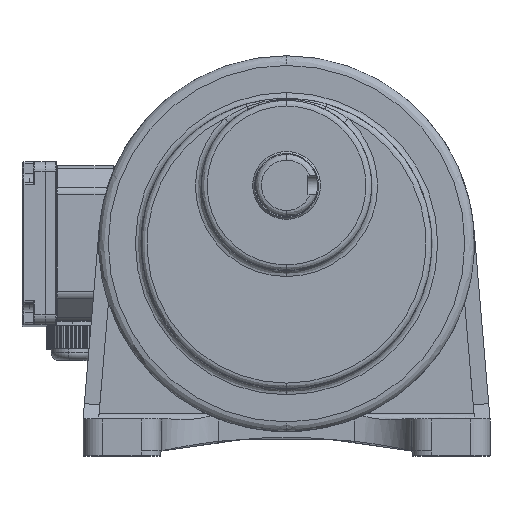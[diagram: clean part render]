
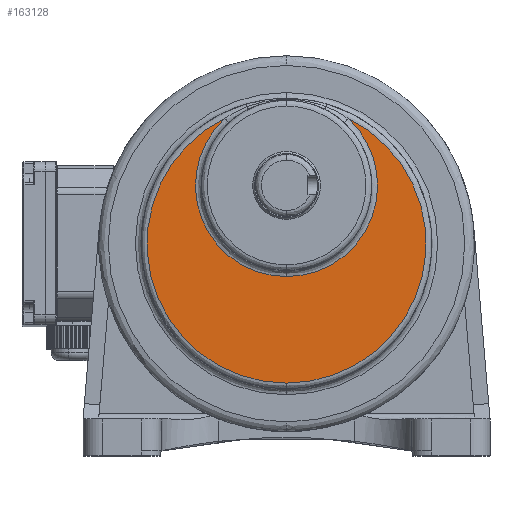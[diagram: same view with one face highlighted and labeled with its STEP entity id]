
A CAD part, top view. The second image highlights one B-rep face of the part: STEP entity #163128.
In plain terms, the highlighted planar face has unit normal (0, 0, 1) as drawn and (0, 1, 0) by its records, which use the part's own axes.
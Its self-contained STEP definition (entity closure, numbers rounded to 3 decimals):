
#5262 = CIRCLE ( 'NONE', #142334, 47. ) ;
#11833 = CARTESIAN_POINT ( 'NONE',  ( 78., 0., -48.063 ) ) ;
#21671 = AXIS2_PLACEMENT_3D ( 'NONE', #11833, #86625, #161398 ) ;
#25664 = ORIENTED_EDGE ( 'NONE', *, *, #219048, .T. ) ;
#27179 = CARTESIAN_POINT ( 'NONE',  ( 0., 0., 47. ) ) ;
#32417 = DIRECTION ( 'NONE',  ( 0., 1., 0. ) ) ;
#32724 = DIRECTION ( 'NONE',  ( 0., -1., 0. ) ) ;
#35110 = ORIENTED_EDGE ( 'NONE', *, *, #106664, .T. ) ;
#38413 = AXIS2_PLACEMENT_3D ( 'NONE', #161771, #236529, #68610 ) ;
#59233 = CIRCLE ( 'NONE', #196266, 47. ) ;
#68610 = DIRECTION ( 'NONE',  ( 0., 0., 1. ) ) ;
#81147 = CARTESIAN_POINT ( 'NONE',  ( 0., 0., 0. ) ) ;
#83918 = CIRCLE ( 'NONE', #220983, 72. ) ;
#86625 = DIRECTION ( 'NONE',  ( 0., 1., 0. ) ) ;
#105038 = CARTESIAN_POINT ( 'NONE',  ( 0., 0., 102. ) ) ;
#105042 = FACE_OUTER_BOUND ( 'NONE', #128860, .T. ) ;
#106212 = VERTEX_POINT ( 'NONE', #143059 ) ;
#106664 = EDGE_CURVE ( 'NONE', #194508, #106212, #83918, .T. ) ;
#107228 = DIRECTION ( 'NONE',  ( 0., 0., 1. ) ) ;
#107544 = DIRECTION ( 'NONE',  ( 0., 0., 1. ) ) ;
#128052 = EDGE_CURVE ( 'NONE', #151868, #194508, #144151, .T. ) ;
#128860 = EDGE_LOOP ( 'NONE', ( #153216, #35110, #174327, #25664 ) ) ;
#137270 = EDGE_CURVE ( 'NONE', #106212, #149865, #59233, .T. ) ;
#142334 = AXIS2_PLACEMENT_3D ( 'NONE', #81147, #155927, #230679 ) ;
#143059 = CARTESIAN_POINT ( 'NONE',  ( 31.828, 0., -34.583 ) ) ;
#144151 = CIRCLE ( 'NONE', #38413, 72. ) ;
#149865 = VERTEX_POINT ( 'NONE', #27179 ) ;
#151868 = VERTEX_POINT ( 'NONE', #196958 ) ;
#153216 = ORIENTED_EDGE ( 'NONE', *, *, #128052, .T. ) ;
#155927 = DIRECTION ( 'NONE',  ( 0., -1., 0. ) ) ;
#161398 = DIRECTION ( 'NONE',  ( 0., 0., 1. ) ) ;
#161771 = CARTESIAN_POINT ( 'NONE',  ( 0., 0., 30. ) ) ;
#163128 = ADVANCED_FACE ( 'NONE', ( #105042 ), #179794, .T. ) ;
#174327 = ORIENTED_EDGE ( 'NONE', *, *, #137270, .T. ) ;
#179794 = PLANE ( 'NONE',  #21671 ) ;
#194508 = VERTEX_POINT ( 'NONE', #105038 ) ;
#196266 = AXIS2_PLACEMENT_3D ( 'NONE', #200651, #32724, #107544 ) ;
#196958 = CARTESIAN_POINT ( 'NONE',  ( -31.828, 0., -34.583 ) ) ;
#200341 = CARTESIAN_POINT ( 'NONE',  ( 0., 0., 30. ) ) ;
#200651 = CARTESIAN_POINT ( 'NONE',  ( 0., 0., 0. ) ) ;
#219048 = EDGE_CURVE ( 'NONE', #149865, #151868, #5262, .T. ) ;
#220983 = AXIS2_PLACEMENT_3D ( 'NONE', #200341, #32417, #107228 ) ;
#230679 = DIRECTION ( 'NONE',  ( 0., 0., 1. ) ) ;
#236529 = DIRECTION ( 'NONE',  ( 0., 1., 0. ) ) ;
